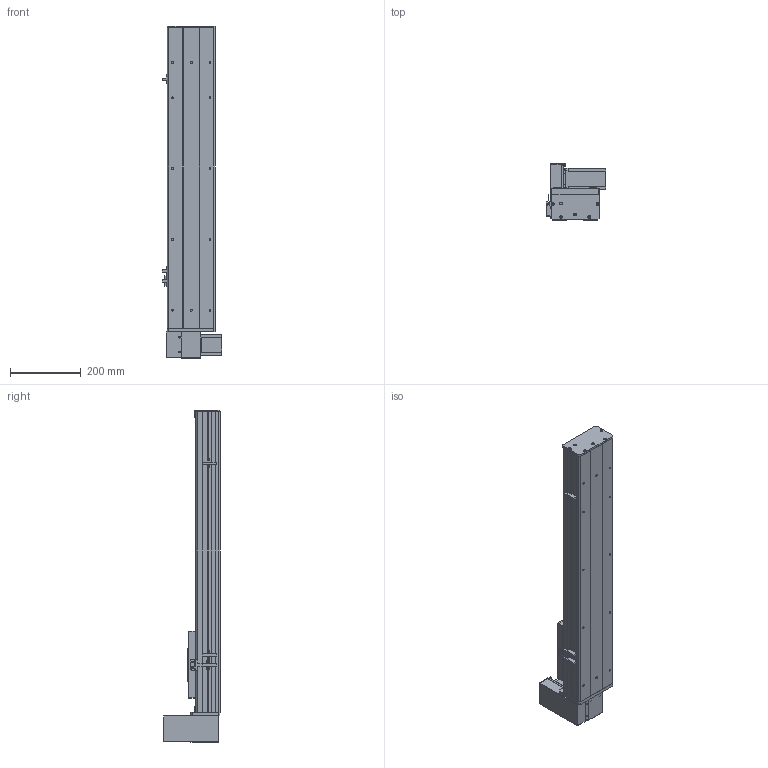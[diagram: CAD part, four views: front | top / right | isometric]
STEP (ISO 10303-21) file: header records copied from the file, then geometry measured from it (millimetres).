
FILE_DESCRIPTION (( 'STEP AP203' ), '1' );
FILE_NAME ('Y135CB-D90-S550-UR-P400W.STEP', '2020-02-18T03:55:08', ( '微软用户' ), ( '微软中国' ), 'SwSTEP 2.0', 'SolidWorks 2017', '' );
FILE_SCHEMA (( 'CONFIG_CONTROL_DESIGN' ));
Length unit declared in the file: millimetre
Products named in the file (18): 135CB--詩湍-CE; 135CB---遴掛极.-; Y100-135俋离換覜ん--; 35CB---喘謫眊楊擘啣; Y135C-陔俋离換覜結え-; 0B-埴倛裔啣; 5C--俋欶; 0B-源倛裔啣; C-雄赽釱--; 0B-萇儂楊擘啣; Y10B--々湍喘謫眊--666; san松下电机400不带刹车----; Y10B-耜蚾蟀諉啣----; 5CB --掛极耜裔啣-; 00B-俋欶BM--; C-詩湍揤踡え-陔; Y135CB-耜裔; Y135CB-D90-S550-UR-P400W
Assembly tree (21 placements, depth 2):
  Y135CB-D90-S550-UR-P400W
    Y135CB-耜裔
    135CB---遴掛极.-
    35CB---喘謫眊楊擘啣
    0B-埴倛裔啣
    0B-源倛裔啣
    0B-萇儂楊擘啣
    san松下电机400不带刹车----
    5CB --掛极耜裔啣-  x2
    C-詩湍揤踡え-陔  x2
    135CB--詩湍-CE
    Y100-135俋离換覜ん--  x3
    Y135C-陔俋离換覜結え-
    5C--俋欶
    C-雄赽釱--
    Y10B--々湍喘謫眊--666
    Y10B-耜蚾蟀諉啣----
    00B-俋欶BM--
Bounding box: 167.5 x 158.7 x 938 mm (x, y, z)
Volume: 3217785.7 mm3; surface area: 1247110.9 mm2
Topology: 21 solids, 21 shells, 937 faces, 2491 edges, 1650 vertices
Faces by surface type: cylinder 465, plane 456, cone 16
Entity records: 28945 total; most frequent: DIRECTION 4807, CARTESIAN_POINT 4724, ORIENTED_EDGE 4458, EDGE_CURVE 2229, AXIS2_PLACEMENT_3D 1749, VERTEX_POINT 1478, LINE 1309, VECTOR 1309
